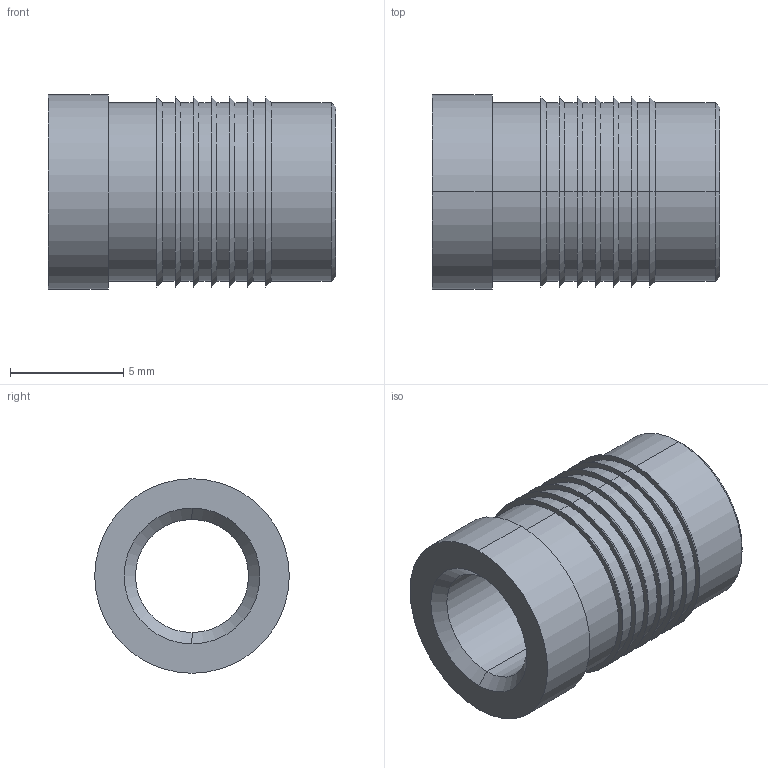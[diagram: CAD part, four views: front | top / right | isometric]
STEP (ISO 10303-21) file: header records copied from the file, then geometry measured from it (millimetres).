
FILE_DESCRIPTION (( 'STEP AP203' ), '1' );
FILE_NAME ('FSUK-PU-M06-S.STEP', '2021-04-15T12:31:23', ( '' ), ( '' ), 'SwSTEP 2.0', 'SolidWorks 2021', '' );
FILE_SCHEMA (( 'CONFIG_CONTROL_DESIGN' ));
Length unit declared in the file: millimetre
Products named in the file (1): FSUK-PU-M06-S
Bounding box: 12.7 x 8.6 x 8.6 mm (x, y, z)
Volume: 398.1 mm3; surface area: 650.7 mm2
Topology: 1 solids, 1 shells, 50 faces, 100 edges, 60 vertices
Faces by surface type: cone 20, cylinder 20, plane 10
Entity records: 1385 total; most frequent: DIRECTION 262, CARTESIAN_POINT 211, ORIENTED_EDGE 200, AXIS2_PLACEMENT_3D 111, EDGE_CURVE 100, EDGE_LOOP 60, CIRCLE 60, VERTEX_POINT 60
